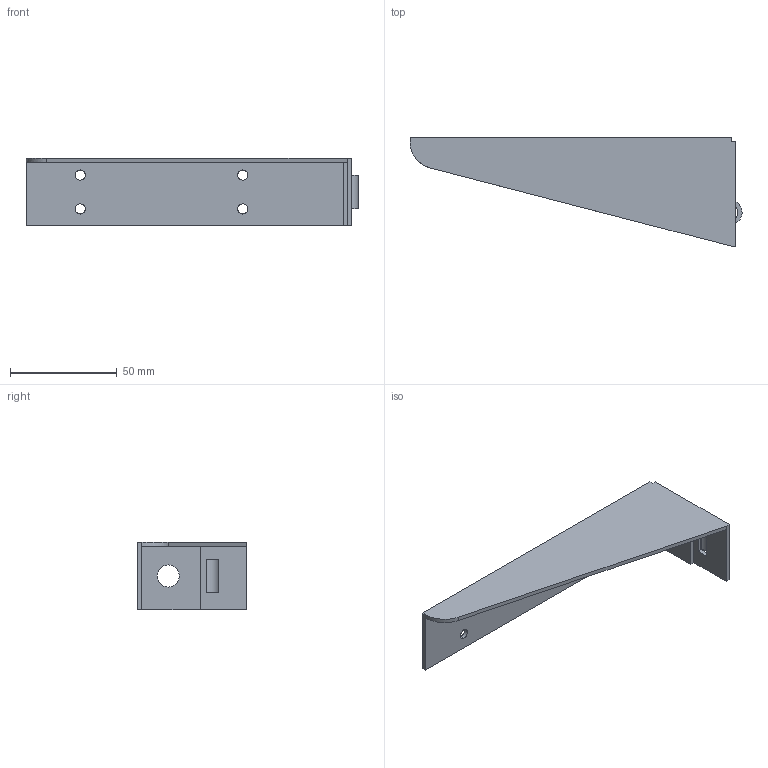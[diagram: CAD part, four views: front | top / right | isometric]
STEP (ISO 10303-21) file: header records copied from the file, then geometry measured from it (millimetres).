
FILE_DESCRIPTION(('TurboCAD Mac Pro'),'Build 980');
FILE_NAME('A2491R.stp',' ',(''),(''),'ACIS Interop','IMSI','TurboCAD Mac Pro BY IMSI, INCORPORATED');
FILE_SCHEMA(('automotive_design'));
Length unit declared in the file: inch
Products named in the file (1): 1
Bounding box: 155.57 x 50.8 x 31.75 mm (x, y, z)
Volume: 21657.7 mm3; surface area: 22489.2 mm2
Topology: 1 solids, 1 shells, 45 faces, 126 edges, 82 vertices
Faces by surface type: bspline 24, plane 20, cylinder 1
Entity records: 1979 total; most frequent: CARTESIAN_POINT 570, ORIENTED_EDGE 252, DIRECTION 128, EDGE_CURVE 126, VERTEX_POINT 82, LINE 76, VECTOR 76, EDGE_LOOP 58
